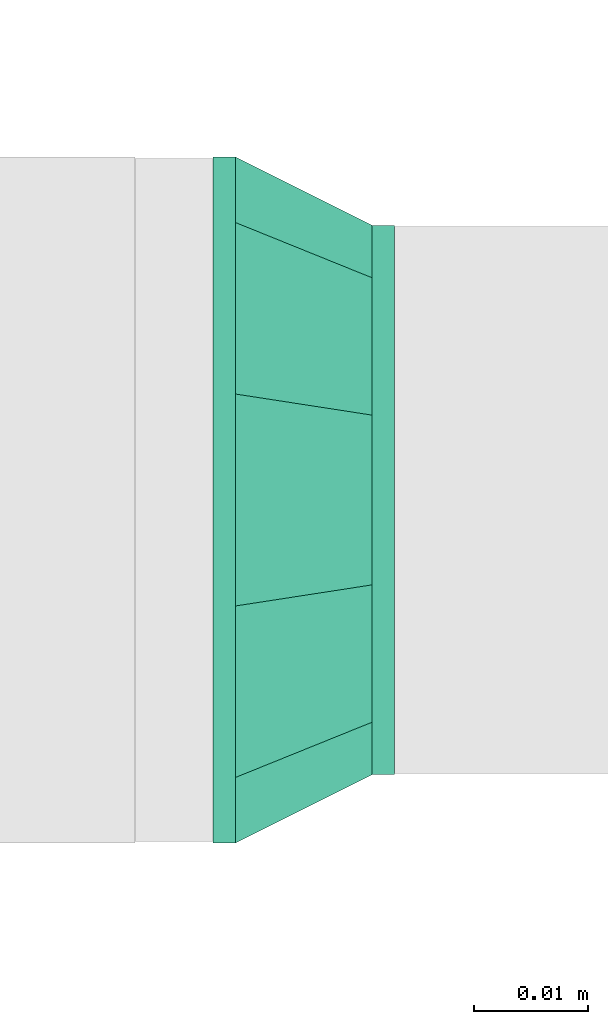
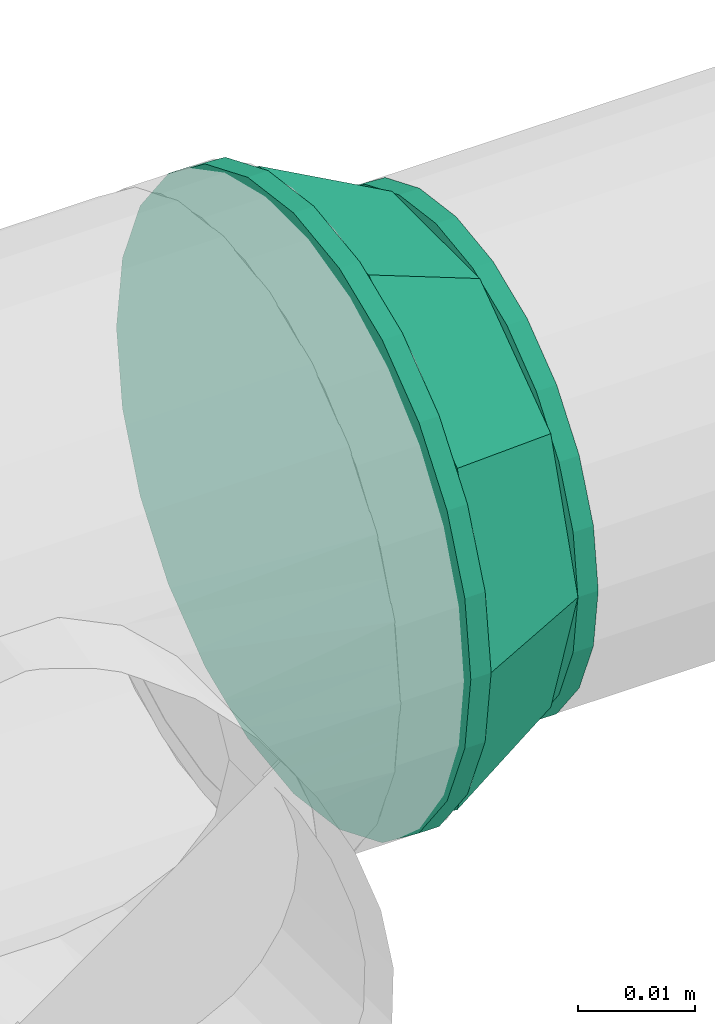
# One storey, part 44 of 45: 1 flow fitting.
"""IFC2X3 building model written with IfcOpenShell, lengths in millimetres."""

import ifcopenshell
import ifcopenshell.guid

model = None  # the IFC model being written
_history = None  # IfcOwnerHistory: only IFC2X3 demands one
_inside = {}  # id of a spatial element -> (the spatial element, [elements in it])
_under = {}  # id of a project, library or spatial element -> (it, [spatial elements below it])
_declared = {}  # id of a project -> (the project, [libraries it declares])
_typed = {}  # id of a type object -> (the type object, [elements of that type])
_made_of = {}  # id of a material, layer set ... -> (it, [elements and type objects made of it])


def new_model(schema):
    """Start an empty IFC model of exactly this schema.

    Asked for "IFC4X3", IfcOpenShell would pick the latest addendum, in which some entities
    have other attributes; the version numbers below select the first issue.
    IFC2X3 requires an IfcOwnerHistory on every rooted entity: one is made here for all.
    """
    global model, _history
    if schema == "IFC4X3":
        model = ifcopenshell.file(schema_version=(4, 3, 0, 0))
    else:
        model = ifcopenshell.file(schema=schema)
    _inside.clear()
    _under.clear()
    _declared.clear()
    _typed.clear()
    _made_of.clear()
    _history = None
    if model.schema == "IFC2X3":
        org = make("IfcOrganization", Name="unknown")
        user = make(
            "IfcPersonAndOrganization",
            ThePerson=make("IfcPerson", FamilyName="unknown"),
            TheOrganization=org,
        )
        app = make(
            "IfcApplication",
            ApplicationDeveloper=org,
            Version="unknown",
            ApplicationFullName="unknown",
            ApplicationIdentifier="unknown",
        )
        _history = make(
            "IfcOwnerHistory",
            OwningUser=user,
            OwningApplication=app,
            ChangeAction="ADDED",
            CreationDate=0,
        )
    return model


def make(cls, **values):
    """One entity of the class cls with the attributes given. An attribute that is None is left unset."""
    return model.create_entity(
        cls, **{name: value for name, value in values.items() if value is not None}
    )


def entity(cls, *values):
    """Any entity or typed value of the class cls, its attributes in the order of the schema. None: left unset."""
    e = model.create_entity(cls)
    for i, value in enumerate(values):
        if value is not None:
            e[i] = value
    return e


def rooted(cls, **values):
    """An entity with a GlobalId (a new one), such as an element, a storey or a relation."""
    return make(cls, GlobalId=ifcopenshell.guid.new(), OwnerHistory=_history, **values)


def si_unit(unit_type, name, prefix=None):
    """IfcSIUnit, for example si_unit("LENGTHUNIT", "METRE", prefix="MILLI")."""
    return make("IfcSIUnit", UnitType=unit_type, Prefix=prefix, Name=name)


def converted_unit(unit_type, name, factor, base, dimensions=None, offset=None):
    """IfcConversionBasedUnit, such as the inch: factor (a typed value) times the base unit."""
    return make(
        "IfcConversionBasedUnit"
        if offset is None
        else "IfcConversionBasedUnitWithOffset",
        ConversionOffset=offset,
        Dimensions=None
        if dimensions is None
        else entity("IfcDimensionalExponents", *dimensions),
        UnitType=unit_type,
        Name=name,
        ConversionFactor=make(
            "IfcMeasureWithUnit", ValueComponent=factor, UnitComponent=base
        ),
    )


def derived_unit(unit_type, elements):
    """IfcDerivedUnit: a product of units, each with its exponent."""
    return make(
        "IfcDerivedUnit",
        Elements=[
            make("IfcDerivedUnitElement", Unit=unit, Exponent=power)
            for unit, power in elements
        ],
        UnitType=unit_type,
    )


def assignment(units):
    """IfcUnitAssignment: the units of a project."""
    return None if units is None else make("IfcUnitAssignment", Units=units)


def point(xyz):
    """IfcCartesianPoint."""
    return None if xyz is None else make("IfcCartesianPoint", Coordinates=xyz)


def direction(xyz):
    """IfcDirection."""
    return None if xyz is None else make("IfcDirection", DirectionRatios=xyz)


def frame(location, z_axis=None, x_axis=None):
    """IfcAxis2Placement3D, a coordinate frame: its origin and axes. An axis left out is left unset."""
    return make(
        "IfcAxis2Placement3D",
        Location=point(location),
        Axis=direction(z_axis),
        RefDirection=direction(x_axis),
    )


def origin_with_axes():
    """The frame at (0, 0, 0) with the z axis (0, 0, 1) and the x axis (1, 0, 0) written out."""
    return frame((0.0, 0.0, 0.0), z_axis=(0.0, 0.0, 1.0), x_axis=(1.0, 0.0, 0.0))


def place(relative_to, where):
    """IfcLocalPlacement: puts the frame where relative to a parent placement (None: the world)."""
    return make(
        "IfcLocalPlacement", PlacementRelTo=relative_to, RelativePlacement=where
    )


def context(
    kind, dimensions, precision=None, world=None, true_north=None, identifier=None
):
    """IfcGeometricRepresentationContext, for example the 3D "Model" context."""
    return make(
        "IfcGeometricRepresentationContext",
        ContextIdentifier=identifier,
        ContextType=kind,
        CoordinateSpaceDimension=dimensions,
        Precision=precision,
        WorldCoordinateSystem=world,
        TrueNorth=true_north,
    )


def subcontext(parent, identifier, kind, view, scale=None):
    """IfcGeometricRepresentationSubContext, for example "Body" below "Model"."""
    return make(
        "IfcGeometricRepresentationSubContext",
        ContextIdentifier=identifier,
        ContextType=kind,
        ParentContext=parent,
        TargetScale=scale,
        TargetView=view,
    )


def project(units=None, contexts=None):
    """IfcProject with its units and contexts."""
    return rooted(
        "IfcProject",
        Name="project",
        RepresentationContexts=contexts,
        UnitsInContext=assignment(units),
    )


def spatial(cls, under=None, at=None, **own):
    """A site, building, storey or space (cls), placed at a placement, below another one or the project."""
    s = rooted(cls, ObjectPlacement=at, **own)
    if under is not None:
        _under.setdefault(under.id(), (under, []))[1].append(s)
    return s


def faces_of(points, faces, orient=None, outer=None):
    """IfcFace entities. A face is a list of loops; a loop is a list of indices into points, from 0.

    orient and outer hold one flag for each loop. By default every Orientation is true, the
    first loop of a face is its IfcFaceOuterBound and the others are IfcFaceBound.
    """
    made = []
    for i, loops in enumerate(faces):
        bounds = []
        for j, loop in enumerate(loops):
            is_outer = j == 0 if outer is None else outer[i][j]
            bounds.append(
                make(
                    "IfcFaceOuterBound" if is_outer else "IfcFaceBound",
                    Bound=make("IfcPolyLoop", Polygon=[points[k] for k in loop]),
                    Orientation=True if orient is None else orient[i][j],
                )
            )
        made.append(make("IfcFace", Bounds=bounds))
    return made


def open_shell(faces, orient=None, outer=None):
    """The faces of one IfcOpenShell. surface_model builds it on its shared points."""
    return ("IfcOpenShell", faces, orient, outer)


def surface_model(cls, points, shells):
    """IfcFaceBasedSurfaceModel or IfcShellBasedSurfaceModel (cls): surfaces that need not close."""
    shared = [point(p) for p in points]
    made = [make(c, CfsFaces=faces_of(shared, fs, o, b)) for c, fs, o, b in shells]
    if cls == "IfcFaceBasedSurfaceModel":
        return make(cls, FbsmFaces=made)
    return make(cls, SbsmBoundary=made)


def shape(context_of_items, identifier, shape_type, items):
    """IfcShapeRepresentation: the items that make up one representation, for example the "Body"."""
    return make(
        "IfcShapeRepresentation",
        ContextOfItems=context_of_items,
        RepresentationIdentifier=identifier,
        RepresentationType=shape_type,
        Items=items,
    )


def source(mapping_origin, context_of_items, identifier, shape_type, items):
    """IfcRepresentationMap: a shape defined once, which mapped items show again and again."""
    return make(
        "IfcRepresentationMap",
        MappingOrigin=mapping_origin,
        MappedRepresentation=shape(context_of_items, identifier, shape_type, items),
    )


def transform(
    local_origin,
    x_axis=None,
    y_axis=None,
    z_axis=None,
    scale=None,
    scale2=None,
    scale3=None,
    uniform=True,
):
    """IfcCartesianTransformationOperator3D, or its non-uniform kind. x_axis, y_axis, z_axis: its Axis1, 2, 3."""
    if uniform:
        return make(
            "IfcCartesianTransformationOperator3D",
            Axis1=direction(x_axis),
            Axis2=direction(y_axis),
            LocalOrigin=point(local_origin),
            Scale=scale,
            Axis3=direction(z_axis),
        )
    return make(
        "IfcCartesianTransformationOperator3DnonUniform",
        Axis1=direction(x_axis),
        Axis2=direction(y_axis),
        LocalOrigin=point(local_origin),
        Scale=scale,
        Axis3=direction(z_axis),
        Scale2=scale2,
        Scale3=scale3,
    )


def mapped(mapping_source, mapping_target):
    """IfcMappedItem: shows the shape of a source again, moved by a transform."""
    return make(
        "IfcMappedItem", MappingSource=mapping_source, MappingTarget=mapping_target
    )


def made_of(thing, what):
    """Note that an element or type object is made of a material, layer set ...; save() writes the relation."""
    if what is not None:
        _made_of.setdefault(what.id(), (what, []))[1].append(thing)
    return thing


def type_object(cls, material=None, **own):
    """A type object (cls), such as IfcWallType, which elements share."""
    return made_of(rooted(cls, **own), material)


def element(
    cls,
    number,
    at=None,
    inside=None,
    cuts=None,
    type_object=None,
    material=None,
    context=None,
    identifier="Body",
    shape_type=None,
    held_by="IfcProductDefinitionShape",
    body=None,
    shapes=None,
    **own,
):
    """One element of the class cls, such as IfcWall. Its Tag is "e" and its number.

    at: its placement. inside: the storey or other place that contains it. cuts: it is an
    opening in that element (IfcRelVoidsElement). A single representation is given by context,
    identifier, shape_type and body (its items); several are given by shapes. held_by: the class
    of the entity that holds the representations. save() writes the other relations.
    """
    e = rooted(cls, Tag="e%d" % number, ObjectPlacement=at, **own)
    if body is not None:
        shapes = [shape(context, identifier, shape_type, body)]
    if shapes is not None:
        e.Representation = make(held_by, Representations=shapes)
    if inside is not None:
        _inside.setdefault(inside.id(), (inside, []))[1].append(e)
    if cuts is not None:
        rooted(
            "IfcRelVoidsElement", RelatingBuildingElement=cuts, RelatedOpeningElement=e
        )
    if type_object is not None:
        _typed.setdefault(type_object.id(), (type_object, []))[1].append(e)
    return made_of(e, material)


def aggregate(whole, parts):
    """IfcRelAggregates: a whole, such as a stair, and the parts it consists of."""
    return rooted("IfcRelAggregates", RelatingObject=whole, RelatedObjects=parts)


def save(model, path):
    """Write the relations noted so far, then the file.

    IfcRelAggregates (storeys below a building ...), IfcRelContainedInSpatialStructure (elements
    in a storey), IfcRelDefinesByType, IfcRelAssociatesMaterial and IfcRelDeclares: one each for
    every whole, place, type object, material and project.
    """
    for whole, parts in _under.values():
        aggregate(whole, parts)
    for where, things in _inside.values():
        rooted(
            "IfcRelContainedInSpatialStructure",
            RelatedElements=things,
            RelatingStructure=where,
        )
    for kind, things in _typed.values():
        rooted("IfcRelDefinesByType", RelatedObjects=things, RelatingType=kind)
    for what, things in _made_of.values():
        rooted("IfcRelAssociatesMaterial", RelatedObjects=things, RelatingMaterial=what)
    for by, libraries in _declared.values():
        rooted("IfcRelDeclares", RelatingContext=by, RelatedDefinitions=libraries)
    model.write(path)


model = new_model("IFC2X3")

# Units and contexts
model_context = context("Model", 3, precision=0.01, world=frame((0.0, 4.29681676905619e-09, 0.0)), true_north=direction((4.01073788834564e-13, 1.0)))
plan_context = context("Plan", 3, precision=0.01, world=frame((0.0, 4.29681676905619e-09, 0.0)), true_north=direction((4.01073788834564e-13, 1.0)))
body_context = subcontext(model_context, "Body", "Model", "MODEL_VIEW")
ifc_project = project(units=[converted_unit("PLANEANGLEUNIT", "DEGREE", entity("IfcPositiveLengthMeasure", 0.0174532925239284), si_unit("PLANEANGLEUNIT", "RADIAN"), dimensions=[0, 0, 0, 0, 0, 0, 0]), si_unit("AREAUNIT", "SQUARE_METRE"), si_unit("LENGTHUNIT", "METRE", prefix="MILLI"), si_unit("MASSUNIT", "GRAM", prefix="KILO"), si_unit("POWERUNIT", "WATT"), si_unit("PRESSUREUNIT", "PASCAL", prefix="KILO"), si_unit("FORCEUNIT", "NEWTON", prefix="KILO"), si_unit("ELECTRICVOLTAGEUNIT", "VOLT"), si_unit("ELECTRICCURRENTUNIT", "AMPERE"), si_unit("THERMODYNAMICTEMPERATUREUNIT", "DEGREE_CELSIUS"), si_unit("TIMEUNIT", "SECOND"), si_unit("VOLUMEUNIT", "CUBIC_METRE"), derived_unit("LINEARVELOCITYUNIT", [(si_unit("LENGTHUNIT", "METRE"), 1), (si_unit("TIMEUNIT", "SECOND"), -1)]), derived_unit("VOLUMETRICFLOWRATEUNIT", [(si_unit("VOLUMEUNIT", "CUBIC_METRE"), 1), (si_unit("TIMEUNIT", "SECOND"), -1)]), derived_unit("THERMALTRANSMITTANCEUNIT", [(si_unit("POWERUNIT", "WATT"), 1), (si_unit("THERMODYNAMICTEMPERATUREUNIT", "KELVIN"), -1), (si_unit("AREAUNIT", "SQUARE_METRE"), -1)]), derived_unit("SOUNDPRESSUREUNIT", [(si_unit("PRESSUREUNIT", "PASCAL"), 1)])], contexts=[model_context, plan_context])

# Site, building, storey
site_placement = place(None, frame((0.0, -4.29681676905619e-09, 0.0), z_axis=(0.0, 0.0, 1.0), x_axis=(1.0, 0.0, 0.0)))
site = spatial("IfcSite", under=ifc_project, at=site_placement, CompositionType="ELEMENT")
building_placement = place(site_placement, frame((0.0, 4.29681676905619e-09, 0.0), z_axis=(0.0, 0.0, 1.0), x_axis=(1.0, 0.0, 0.0)))
building = spatial("IfcBuilding", under=site, at=building_placement, Name="mc-building", CompositionType="ELEMENT")
storey_placement = place(building_placement, frame((0.0, 0.0, 210200.0), z_axis=(0.0, 0.0, 1.0), x_axis=(1.0, 0.0, 0.0)))
storey = spatial("IfcBuildingStorey", under=building, at=storey_placement, Name="Nivå F - 0,7 m", CompositionType="ELEMENT", Elevation=210200.0)

# Flow fitting
pipe_fitting_type = type_object("IfcPipeFittingType", Name="magi_pipe_fe_reducer_centric_short_001", PredefinedType="TRANSITION")
shared_shape = source(origin_with_axes(), body_context, "Body", "SurfaceModel", [
    surface_model("IfcShellBasedSurfaceModel", [(14.0, 12.1, -20.95781), (14.0, -24.2, 0.0), (14.0, 6.26342, -23.37541), (14.0, 23.37541, -6.26342), (14.0, 17.11198, -17.11198), (14.0, 20.95781, -12.1), (14.0, -17.11198, -17.11198), (14.0, -6.26342, -23.37541), (14.0, -12.1, -20.95781), (14.0, 0.0, -24.2), (14.0, -23.37541, -6.26342), (14.0, -20.95781, -12.1), (14.0, 24.2, 0.0), (14.0, 23.37541, 6.26342), (14.0, 20.95781, 12.1), (14.0, 17.11198, 17.11198), (14.0, 12.1, 20.95781), (14.0, 6.26342, 23.37541), (14.0, 0.0, 24.2), (14.0, -23.37541, 6.26342), (14.0, -17.11198, 17.11198), (14.0, -20.95781, 12.1), (14.0, -6.26342, 23.37541), (14.0, -12.1, 20.95781), (12.0, 0.0, 24.2), (12.0, 6.26342, 23.37541), (12.0, 12.1, 20.95781), (12.0, 17.11198, 17.11198), (12.0, 20.95781, 12.1), (12.0, 23.37541, 6.26342), (12.0, -23.37541, 6.26342), (12.0, -17.11198, -17.11198), (12.0, -6.26342, 23.37541), (12.0, -17.11198, 17.11198), (12.0, -12.1, 20.95781), (12.0, -20.95781, 12.1), (12.0, -24.2, 0.0), (12.0, 24.2, 0.0), (12.0, 17.11198, -17.11198), (12.0, 23.37541, -6.26342), (12.0, 20.95781, -12.1), (12.0, 12.1, -20.95781), (12.0, 6.26342, -23.37541), (12.0, -23.37541, -6.26342), (12.0, -20.95781, -12.1), (12.0, -6.26342, -23.37541), (12.0, -12.1, -20.95781), (12.0, 0.0, -24.2), (-2.0, 0.0, 30.2), (-2.0, 7.81634, 29.17096), (-2.0, 15.1, 26.15397), (-2.0, 21.35462, 21.35462), (-2.0, 26.15397, 15.1), (-2.0, 29.17096, 7.81634), (-2.0, -29.17096, 7.81634), (-2.0, 30.2, 0.0), (-2.0, -7.81634, 29.17096), (-2.0, -21.35462, 21.35462), (-2.0, -15.1, 26.15397), (-2.0, -26.15397, 15.1), (-2.0, -30.2, 0.0), (-2.0, 29.17096, -7.81634), (-2.0, 26.15397, -15.1), (-2.0, 21.35462, -21.35462), (-2.0, 15.1, -26.15397), (-2.0, 7.81634, -29.17096), (-2.0, -15.1, -26.15397), (-2.0, -29.17096, -7.81634), (-2.0, -21.35462, -21.35462), (-2.0, -26.15397, -15.1), (-2.0, 0.0, -30.2), (-2.0, -7.81634, -29.17096), (0.0, 7.81634, -29.17096), (0.0, 15.1, -26.15397), (0.0, 21.35462, -21.35462), (0.0, 30.2, 0.0), (0.0, 26.15397, -15.1), (0.0, 29.17096, -7.81634), (0.0, -15.1, -26.15397), (0.0, -29.17096, 7.81634), (0.0, 0.0, -30.2), (0.0, -7.81634, -29.17096), (0.0, -21.35462, -21.35462), (0.0, -29.17096, -7.81634), (0.0, -26.15397, -15.1), (0.0, 29.17096, 7.81634), (0.0, 26.15397, 15.1), (0.0, 21.35462, 21.35462), (0.0, -21.35462, 21.35462), (0.0, 15.1, 26.15397), (0.0, 7.81634, 29.17096), (0.0, 0.0, 30.2), (0.0, -26.15397, 15.1), (0.0, -30.2, 0.0), (0.0, -7.81634, 29.17096), (0.0, -15.1, 26.15397), (12.0, -7.47821, 23.01557), (12.0, -19.57821, 14.2244), (12.0, 19.57821, 14.2244), (12.0, 7.47821, 23.01557), (12.0, -7.47821, -23.01557), (12.0, -19.57821, -14.2244), (12.0, 7.47821, -23.01557), (12.0, 19.57821, -14.2244), (0.0, 9.33231, 28.72191), (0.0, 24.43231, 17.75111), (0.0, -9.33231, 28.72191), (0.0, -24.43231, 17.75111), (0.0, 9.33231, -28.72191), (0.0, 24.43231, -17.75111), (0.0, -9.33231, -28.72191), (0.0, -24.43231, -17.75111), (12.0, 13.52821, -18.61999), (0.0, 16.88231, -23.23651), (0.0, 27.31616, -8.87556), (12.0, 21.8891, -7.1122), (0.0, -27.48172, -8.36602), (12.0, 0.0, -23.01557), (0.0, 0.0, -28.72191), (12.0, -21.8891, -7.1122), (0.0, -16.88231, -23.23651), (12.0, -13.52821, -18.61999), (12.0, -13.52821, 18.61999), (0.0, -16.88231, 23.23651), (0.0, -27.31616, 8.87556), (12.0, -21.8891, 7.1122), (0.0, 27.48172, 8.36602), (12.0, 0.0, 23.01557), (0.0, 0.0, 28.72191), (12.0, 21.8891, 7.1122), (0.0, 16.88231, 23.23651), (12.0, 13.52821, 18.61999)], [open_shell([[[0, 1, 2]], [[3, 0, 4]], [[0, 3, 1]], [[3, 4, 5]], [[1, 6, 2]], [[7, 6, 8]], [[7, 9, 2]], [[6, 10, 11]], [[7, 2, 6]], [[6, 1, 10]], [[12, 1, 3]], [[13, 14, 15]], [[12, 15, 1]], [[16, 17, 18]], [[16, 18, 15]], [[1, 15, 18]], [[19, 20, 21]], [[22, 19, 1]], [[20, 22, 23]], [[22, 20, 19]], [[1, 18, 22]], [[15, 12, 13]], [[24, 25, 26]], [[24, 26, 27]], [[27, 28, 29]], [[24, 27, 30]], [[27, 31, 30]], [[32, 33, 34]], [[32, 24, 33]], [[33, 30, 35]], [[24, 30, 33]], [[30, 31, 36]], [[27, 29, 37]], [[38, 37, 39]], [[38, 39, 40]], [[41, 42, 37]], [[41, 37, 38]], [[42, 31, 27]], [[43, 31, 44]], [[36, 31, 43]], [[31, 45, 46]], [[31, 42, 45]], [[47, 45, 42]], [[27, 37, 42]], [[43, 10, 36]], [[44, 11, 43]], [[8, 31, 46]], [[44, 31, 6]], [[7, 46, 45]], [[43, 11, 10]], [[10, 1, 36]], [[7, 8, 46]], [[6, 31, 8]], [[6, 11, 44]], [[9, 7, 45]], [[45, 47, 9]], [[42, 2, 47]], [[41, 0, 42]], [[5, 38, 40]], [[41, 38, 4]], [[3, 40, 39]], [[41, 4, 0]], [[0, 2, 42]], [[12, 3, 39]], [[5, 40, 3]], [[5, 4, 38]], [[37, 12, 39]], [[47, 2, 9]], [[29, 13, 37]], [[28, 14, 29]], [[16, 27, 26]], [[28, 27, 15]], [[17, 26, 25]], [[29, 14, 13]], [[13, 12, 37]], [[17, 16, 26]], [[15, 27, 16]], [[15, 14, 28]], [[18, 17, 25]], [[25, 24, 18]], [[32, 22, 24]], [[34, 23, 32]], [[21, 33, 35]], [[34, 33, 20]], [[19, 35, 30]], [[34, 20, 23]], [[23, 22, 32]], [[1, 19, 30]], [[21, 35, 19]], [[21, 20, 33]], [[36, 1, 30]], [[24, 22, 18]], [[48, 49, 50]], [[48, 50, 51]], [[51, 52, 53]], [[48, 51, 54]], [[55, 54, 51]], [[56, 57, 58]], [[56, 48, 57]], [[57, 54, 59]], [[48, 54, 57]], [[54, 55, 60]], [[55, 51, 53]], [[55, 61, 62]], [[55, 62, 63]], [[63, 64, 65]], [[63, 65, 55]], [[65, 66, 60]], [[67, 68, 69]], [[68, 67, 66]], [[66, 70, 71]], [[67, 60, 66]], [[65, 70, 66]], [[60, 55, 65]], [[72, 73, 74]], [[72, 74, 75]], [[76, 77, 75]], [[76, 75, 74]], [[78, 72, 79]], [[80, 78, 81]], [[80, 72, 78]], [[82, 83, 84]], [[83, 82, 78]], [[78, 79, 83]], [[79, 72, 75]], [[85, 86, 87]], [[75, 87, 88]], [[89, 90, 91]], [[88, 87, 89]], [[88, 89, 91]], [[79, 88, 92]], [[93, 83, 79]], [[88, 94, 95]], [[79, 75, 88]], [[94, 88, 91]], [[85, 87, 75]], [[67, 83, 60]], [[69, 84, 67]], [[78, 68, 66]], [[69, 68, 82]], [[81, 66, 71]], [[67, 84, 83]], [[83, 93, 60]], [[81, 78, 66]], [[82, 68, 78]], [[82, 84, 69]], [[80, 81, 71]], [[71, 70, 80]], [[65, 72, 70]], [[64, 73, 65]], [[76, 63, 62]], [[64, 63, 74]], [[77, 62, 61]], [[64, 74, 73]], [[73, 72, 65]], [[75, 77, 61]], [[76, 62, 77]], [[76, 74, 63]], [[55, 75, 61]], [[70, 72, 80]], [[53, 85, 55]], [[52, 86, 53]], [[89, 51, 50]], [[52, 51, 87]], [[90, 50, 49]], [[53, 86, 85]], [[85, 75, 55]], [[90, 89, 50]], [[87, 51, 89]], [[87, 86, 52]], [[91, 90, 49]], [[49, 48, 91]], [[56, 94, 48]], [[58, 95, 56]], [[92, 57, 59]], [[58, 57, 88]], [[79, 59, 54]], [[58, 88, 95]], [[95, 94, 56]], [[93, 79, 54]], [[92, 59, 79]], [[92, 88, 57]], [[60, 93, 54]], [[48, 94, 91]], [[96, 97, 98]], [[96, 98, 99]], [[98, 97, 37]], [[97, 100, 37]], [[101, 100, 97]], [[102, 103, 37]], [[37, 100, 102]], [[36, 101, 97]], [[104, 105, 93]], [[106, 93, 107]], [[93, 106, 104]], [[105, 108, 93]], [[108, 105, 109]], [[93, 110, 111]], [[93, 108, 110]], [[109, 105, 75]], [[109, 103, 112]], [[102, 113, 112]], [[113, 102, 108]], [[114, 115, 103]], [[37, 115, 75]], [[113, 109, 112]], [[36, 93, 116]], [[108, 117, 118]], [[118, 117, 100]], [[100, 110, 118]], [[103, 109, 114]], [[75, 115, 114]], [[116, 119, 36]], [[120, 121, 101]], [[100, 121, 110]], [[111, 101, 119]], [[110, 121, 120]], [[101, 111, 120]], [[102, 117, 108]], [[111, 119, 116]], [[107, 97, 122]], [[96, 123, 122]], [[123, 96, 106]], [[124, 125, 97]], [[36, 125, 93]], [[123, 107, 122]], [[37, 75, 126]], [[106, 127, 128]], [[128, 127, 99]], [[99, 104, 128]], [[97, 107, 124]], [[93, 125, 124]], [[126, 129, 37]], [[130, 131, 98]], [[99, 131, 104]], [[105, 98, 129]], [[104, 131, 130]], [[98, 105, 130]], [[96, 127, 106]], [[105, 129, 126]]])]),
])
flow_fitting_placement = place(storey_placement, frame((324774.17326, 461628.40208, 2938.0), z_axis=(0.0, 0.0, 1.0), x_axis=(1.0, 0.0, 0.0)))
element("IfcFlowFitting", 1, at=flow_fitting_placement, inside=storey, type_object=pipe_fitting_type, Name="magi_pipe_fe_reducer_centric_short_001", context=body_context, shape_type="MappedRepresentation", body=[
    mapped(shared_shape, transform((0.0, 0.0, 0.0), scale=1.0)),
])

save(model, "model.ifc")
